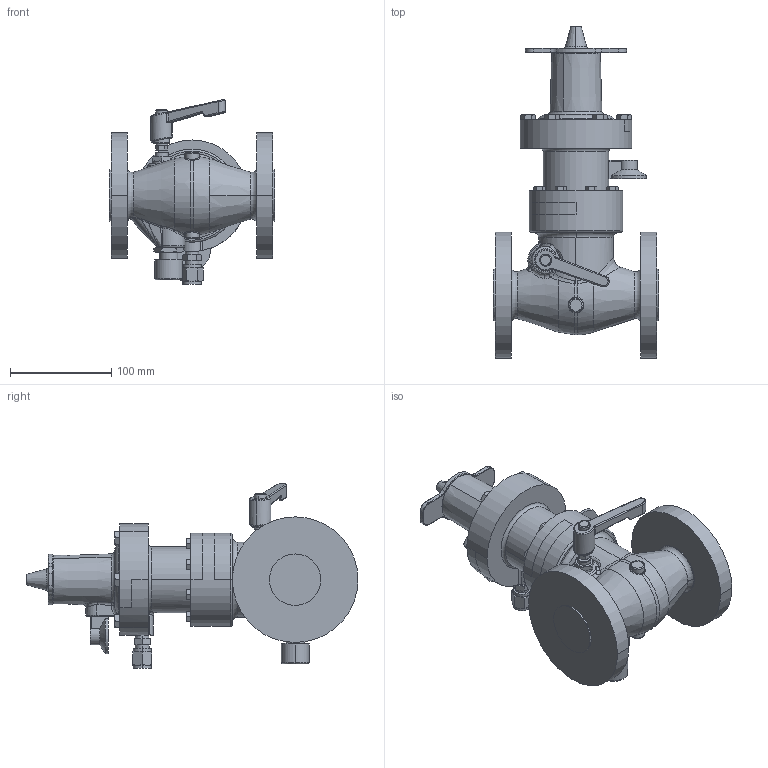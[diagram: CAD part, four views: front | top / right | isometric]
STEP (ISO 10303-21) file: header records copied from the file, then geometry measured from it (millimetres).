
FILE_DESCRIPTION((''),'2;1');
FILE_NAME('226052_ASM_GIPS_1_150_SW0001','2019-09-30T',('jjunior'),(''),'PRO/ENGINEER BY PARAMETRIC TECHNOLOGY CORPORATION, 2010160','PRO/ENGINEER BY PARAMETRIC TECHNOLOGY CORPORATION, 2010160','');
FILE_SCHEMA(('CONFIG_CONTROL_DESIGN'));
Length unit declared in the file: millimetre
Products named in the file (1): 226052_ASM_GIPS_1_150_SW0001
Bounding box: 163 x 327.7 x 182.2 mm (x, y, z)
Volume: 1888383.8 mm3; surface area: 173861.1 mm2
Topology: 2 solids, 3 shells, 1057 faces, 2728 edges, 1710 vertices
Faces by surface type: plane 552, cone 163, cylinder 134, bspline 127, torus 67, sphere 14
Entity records: 42733 total; most frequent: CARTESIAN_POINT 18579, ORIENTED_EDGE 5384, DIRECTION 4467, EDGE_CURVE 2692, VERTEX_POINT 1698, AXIS2_PLACEMENT_3D 1529, VECTOR 1409, LINE 1409
